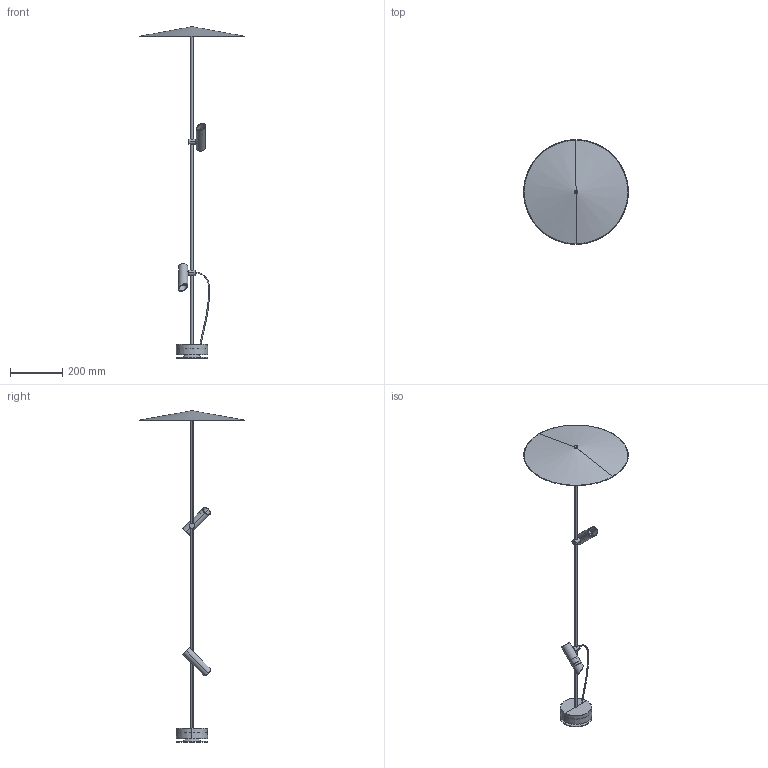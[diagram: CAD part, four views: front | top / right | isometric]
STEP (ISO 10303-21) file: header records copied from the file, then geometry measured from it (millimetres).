
FILE_DESCRIPTION(/* description */ (''),/* implementation_level */ '2;1');
FILE_NAME(/* name */ 'clap_1266_beacon_screen.step',/* time_stamp */ '2025-02-26T11:33:01+01:00',/* author */ ('RenataManzini'),/* organization */ (''),/* preprocessor_version */ 'ST-DEVELOPER v20',/* originating_system */ 'AutoCAD Mechanical',/* authorisation */ '');
FILE_SCHEMA (('AUTOMOTIVE_DESIGN { 1 0 10303 214 3 1 1 }'));
Length unit declared in the file: millimetre
Products named in the file (4): Product; CLAP_ pantalla_l - CLAP Accesorio pantalla L negro-486579-_3D_; CLAP_ pantalla_s - CLAP Accesorio pantalla S negro-489808-_3D_; CLAP_ lamp - CLAP Proyector-489792-_3D_
Assembly tree (5 placements, depth 2):
  Product
    CLAP_ pantalla_s - CLAP Accesorio pantalla S negro-489808-_3D_  x2
    CLAP_ lamp - CLAP Proyector-489792-_3D_  x2
    CLAP_ pantalla_l - CLAP Accesorio pantalla L negro-486579-_3D_
Bounding box: 400 x 400 x 1266 mm (x, y, z)
Volume: 731175 mm3; surface area: 444739.2 mm2
Topology: 12 solids, 13 shells, 130 faces, 233 edges, 131 vertices
Faces by surface type: plane 66, cylinder 36, cone 22, torus 4, bspline 2
Entity records: 3770 total; most frequent: CARTESIAN_POINT 1858, DIRECTION 422, ORIENTED_EDGE 332, AXIS2_PLACEMENT_3D 175, EDGE_CURVE 166, EDGE_LOOP 96, FACE_OUTER_BOUND 93, ADVANCED_FACE 93
